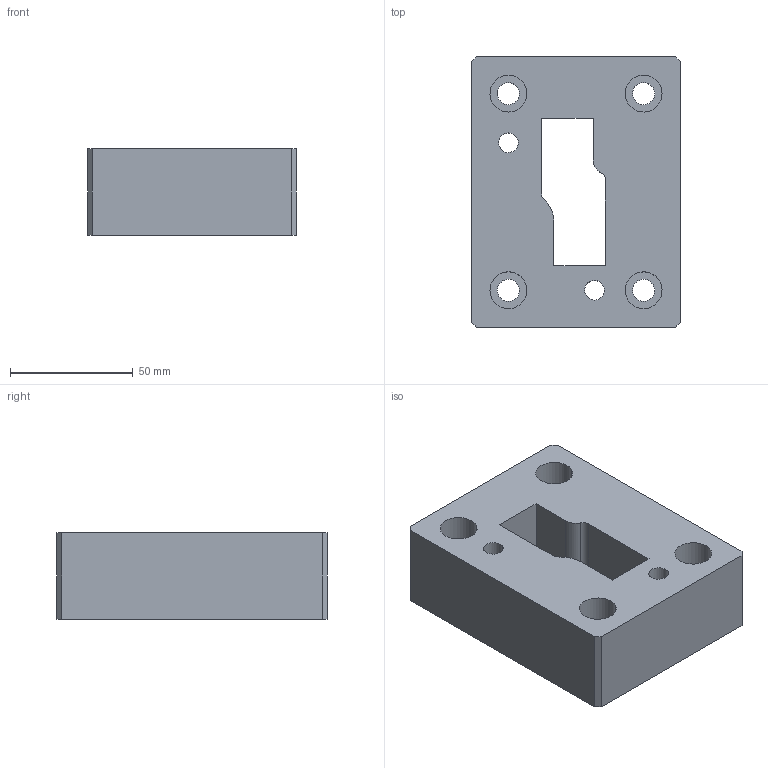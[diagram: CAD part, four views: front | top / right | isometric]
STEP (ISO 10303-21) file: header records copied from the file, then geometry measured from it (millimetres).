
FILE_DESCRIPTION(('CATIA V5 STEP Exchange','CAx-IF Rec.Pracs.--- Model Styling and Organization---1.5--- 2016-08-15','CAx-IF Rec.Pracs.---Supplemental Geometry---1.0---2011-11-01','CAx-IF Rec.Pracs.--- Composite Materials ---1.1---2010-07-15','CAx-IF Rec.Pracs.---External References---2.1---2005-01-19'),'2;1');
FILE_NAME('E:\WAT\Sprezarka\122_00_00_Tlocznik2\Tlocznik2_KPL\Tlocznik2_stp\122_03_51_Oprawa.stp','2023-08-01T08:40:10+00:00',('none'),('none'),'CATIA Version 5-6 Release 2022 SP3','CATIA V5 STEP AP214 v2','none');
FILE_SCHEMA(('AUTOMOTIVE_DESIGN { 1 0 10303 214 1 1 1 1 }'));
Length unit declared in the file: millimetre
Products named in the file (1): 122_03_51_Oprawa
Bounding box: 85 x 110 x 35 mm (x, y, z)
Volume: 261295.3 mm3; surface area: 41441.4 mm2
Topology: 1 solids, 1 shells, 44 faces, 114 edges, 76 vertices
Faces by surface type: cylinder 24, plane 20
Entity records: 1367 total; most frequent: ORIENTED_EDGE 228, CARTESIAN_POINT 222, DIRECTION 176, EDGE_CURVE 114, AXIS2_PLACEMENT_3D 80, VERTEX_POINT 76, VECTOR 66, LINE 66
